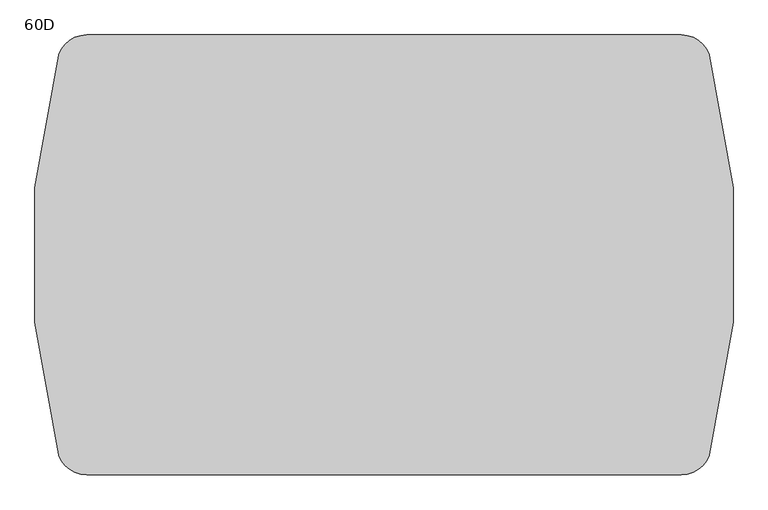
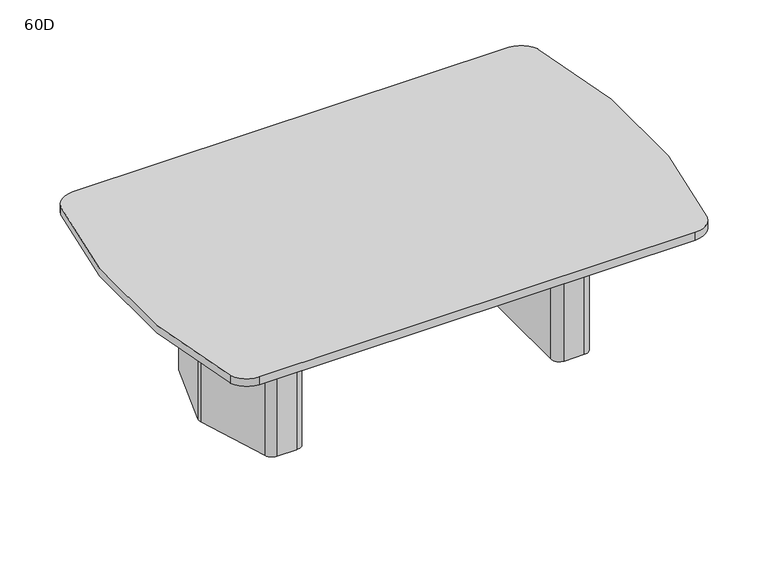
"""IFC4 building model written with IfcOpenShell, lengths in millimetres: furniture geometry, Coalesse_AM_Table_Conference_ETable2_SoftRadiused_96in_TwoBase : 60D."""

from ifc_helpers import new_model, si_unit, point, frame, frame_2d, origin, origin_with_axes, place, context, project, spatial, polyline, circle_curve, trimmed, segment, composite_curve, outline, extrude, source, transform, mapped, element, save


def furniture_60d_01271257(model_context):
    return source(origin(), model_context, "Body", "SweptSolid", [
        extrude(outline(composite_curve([segment(polyline([(817.5625, 101.7236478), (817.5625, -97.2761514)]), True, "CONTINUOUS"), segment(trimmed(circle_curve(frame_2d((779.4625, -97.2761514)), 38.1), [point((817.5625, -97.2761514))], [point((815.7991129, -108.7330515))], False, "CARTESIAN"), True, "CONTINUOUS"), segment(polyline([(815.7991129, -108.7330515), (757.3745591, -294.0319001)]), True, "CONTINUOUS"), segment(trimmed(circle_curve(frame_2d((721.0379462, -282.575)), 38.1), [point((757.3745591, -294.0319001))], [point((721.0379462, -320.675))], False, "CARTESIAN"), True, "CONTINUOUS"), segment(polyline([(721.0379462, -320.675), (654.05, -320.675)]), True, "CONTINUOUS"), segment(trimmed(circle_curve(frame_2d((654.05, -282.575)), 38.1), [point((654.05, -320.675))], [point((615.95, -282.575))], False, "CARTESIAN"), True, "CONTINUOUS"), segment(polyline([(615.95, -282.575), (615.95, 282.575)]), True, "CONTINUOUS"), segment(trimmed(circle_curve(frame_2d((654.05, 282.575)), 38.1), [point((615.95, 282.575))], [point((654.05, 320.675))], False, "CARTESIAN"), True, "CONTINUOUS"), segment(polyline([(654.05, 320.675), (724.7873998, 320.675)]), True, "CONTINUOUS"), segment(trimmed(circle_curve(frame_2d((724.7873998, 282.575)), 38.1), [point((724.7873998, 320.675))], [point((761.2572049, 293.6005756))], False, "CARTESIAN"), True, "CONTINUOUS"), segment(polyline([(761.2572049, 293.6005756), (815.9323051, 112.7492234)]), True, "CONTINUOUS"), segment(trimmed(circle_curve(frame_2d((779.4625, 101.7236478)), 38.1), [point((815.9323051, 112.7492234))], [point((817.5625, 101.7236478))], False, "CARTESIAN"), True, "CONTINUOUS")], self_intersect=False)), origin_with_axes(), (0.0, 0.0, 1.0), 3.175),
        extrude(outline(composite_curve([segment(polyline([(638.175, 381.0), (726.3221663, 381.0)]), True, "CONTINUOUS"), segment(trimmed(circle_curve(frame_2d((726.3221663, 339.725)), 41.275), [point((726.3221663, 381.0))], [point((765.6868303, 352.1366418))], False, "CARTESIAN"), True, "CONTINUOUS"), segment(polyline([(765.6868303, 352.1366418), (872.8018053, 12.4116418)]), True, "CONTINUOUS"), segment(trimmed(circle_curve(frame_2d((833.4371413, 0.0)), 41.275), [point((872.8018053, 12.4116418))], [point((872.8018053, -12.4116418))], False, "CARTESIAN"), True, "CONTINUOUS"), segment(polyline([(872.8018053, -12.4116418), (765.6868303, -352.1366418)]), True, "CONTINUOUS"), segment(trimmed(circle_curve(frame_2d((726.3221663, -339.725)), 41.275), [point((765.6868303, -352.1366418))], [point((726.3221663, -381.0))], False, "CARTESIAN"), True, "CONTINUOUS"), segment(polyline([(726.3221663, -381.0), (631.825, -381.0)]), True, "CONTINUOUS"), segment(trimmed(circle_curve(frame_2d((631.825, -339.725)), 41.275), [point((631.825, -381.0))], [point((590.55, -339.725))], False, "CARTESIAN"), True, "CONTINUOUS"), segment(polyline([(590.55, -339.725), (590.55, 333.375)]), True, "CONTINUOUS"), segment(trimmed(circle_curve(frame_2d((638.175, 333.375)), 47.625), [point((590.55, 333.375))], [point((638.175, 381.0))], False, "CARTESIAN"), True, "CONTINUOUS")], self_intersect=False), holes=[composite_curve([segment(trimmed(circle_curve(frame_2d((654.05, -282.575)), 25.4), [point((628.65, -282.575))], [point((654.05, -307.975))], True, "CARTESIAN"), True, "CONTINUOUS"), segment(polyline([(654.05, -307.975), (721.0379462, -307.975)]), True, "CONTINUOUS"), segment(trimmed(circle_curve(frame_2d((721.0379462, -282.575)), 25.4), [point((721.0379462, -307.975))], [point((745.2623548, -290.2129334))], True, "CARTESIAN"), True, "CONTINUOUS"), segment(polyline([(745.2623548, -290.2129334), (803.6869086, -104.9140848)]), True, "CONTINUOUS"), segment(trimmed(circle_curve(frame_2d((779.4625, -97.2761514)), 25.4), [point((803.6869086, -104.9140848))], [point((804.8625, -97.2761514))], True, "CARTESIAN"), True, "CONTINUOUS"), segment(polyline([(804.8625, -97.2761514), (804.8625, 101.7236478)]), True, "CONTINUOUS"), segment(trimmed(circle_curve(frame_2d((779.4625, 101.7236478)), 25.4), [point((804.8625, 101.7236478))], [point((803.7757034, 109.0740316))], True, "CARTESIAN"), True, "CONTINUOUS"), segment(polyline([(803.7757034, 109.0740316), (749.1006032, 289.9253837)]), True, "CONTINUOUS"), segment(trimmed(circle_curve(frame_2d((724.7873998, 282.575)), 25.4), [point((749.1006032, 289.9253837))], [point((724.7873998, 307.975))], True, "CARTESIAN"), True, "CONTINUOUS"), segment(polyline([(724.7873998, 307.975), (654.05, 307.975)]), True, "CONTINUOUS"), segment(trimmed(circle_curve(frame_2d((654.05, 282.575)), 25.4), [point((654.05, 307.975))], [point((628.65, 282.575))], True, "CARTESIAN"), True, "CONTINUOUS"), segment(polyline([(628.65, 282.575), (628.65, -282.575)]), True, "CONTINUOUS")], self_intersect=False)]), frame((0.0, 0.0, 3.175), z_axis=(0.0, 0.0, 1.0), x_axis=(1.0, 0.0, 0.0)), (0.0, 0.0, 1.0), 695.325),
        extrude(outline(composite_curve([segment(trimmed(circle_curve(frame_2d((-779.4625, 101.7236478)), 38.1), [point((-817.5625, 101.7236478))], [point((-815.9323051, 112.7492234))], False, "CARTESIAN"), True, "CONTINUOUS"), segment(polyline([(-815.9323051, 112.7492234), (-761.2572049, 293.6005756)]), True, "CONTINUOUS"), segment(trimmed(circle_curve(frame_2d((-724.7873998, 282.575)), 38.1), [point((-761.2572049, 293.6005756))], [point((-724.7873998, 320.675))], False, "CARTESIAN"), True, "CONTINUOUS"), segment(polyline([(-724.7873998, 320.675), (-654.05, 320.675)]), True, "CONTINUOUS"), segment(trimmed(circle_curve(frame_2d((-654.05, 282.575)), 38.1), [point((-654.05, 320.675))], [point((-615.95, 282.575))], False, "CARTESIAN"), True, "CONTINUOUS"), segment(polyline([(-615.95, 282.575), (-615.95, -282.575)]), True, "CONTINUOUS"), segment(trimmed(circle_curve(frame_2d((-654.05, -282.575)), 38.1), [point((-615.95, -282.575))], [point((-654.05, -320.675))], False, "CARTESIAN"), True, "CONTINUOUS"), segment(polyline([(-654.05, -320.675), (-721.0379462, -320.675)]), True, "CONTINUOUS"), segment(trimmed(circle_curve(frame_2d((-721.0379462, -282.575)), 38.1), [point((-721.0379462, -320.675))], [point((-757.3745591, -294.0319001))], False, "CARTESIAN"), True, "CONTINUOUS"), segment(polyline([(-757.3745591, -294.0319001), (-815.7991129, -108.7330515)]), True, "CONTINUOUS"), segment(trimmed(circle_curve(frame_2d((-779.4625, -97.2761514)), 38.1), [point((-815.7991129, -108.7330515))], [point((-817.5625, -97.2761514))], False, "CARTESIAN"), True, "CONTINUOUS"), segment(polyline([(-817.5625, -97.2761514), (-817.5625, 101.7236478)]), True, "CONTINUOUS")], self_intersect=False)), origin_with_axes(), (0.0, 0.0, 1.0), 3.175),
        extrude(outline(composite_curve([segment(trimmed(circle_curve(frame_2d((-638.175, 333.375)), 47.625), [point((-638.175, 381.0))], [point((-590.55, 333.375))], False, "CARTESIAN"), True, "CONTINUOUS"), segment(polyline([(-590.55, 333.375), (-590.55, -339.725)]), True, "CONTINUOUS"), segment(trimmed(circle_curve(frame_2d((-631.825, -339.725)), 41.275), [point((-590.55, -339.725))], [point((-631.825, -381.0))], False, "CARTESIAN"), True, "CONTINUOUS"), segment(polyline([(-631.825, -381.0), (-726.3221663, -381.0)]), True, "CONTINUOUS"), segment(trimmed(circle_curve(frame_2d((-726.3221663, -339.725)), 41.275), [point((-726.3221663, -381.0))], [point((-765.6868303, -352.1366418))], False, "CARTESIAN"), True, "CONTINUOUS"), segment(polyline([(-765.6868303, -352.1366418), (-872.8018053, -12.4116418)]), True, "CONTINUOUS"), segment(trimmed(circle_curve(frame_2d((-833.4371413, 0.0)), 41.275), [point((-872.8018053, -12.4116418))], [point((-872.8018053, 12.4116418))], False, "CARTESIAN"), True, "CONTINUOUS"), segment(polyline([(-872.8018053, 12.4116418), (-765.6868303, 352.1366418)]), True, "CONTINUOUS"), segment(trimmed(circle_curve(frame_2d((-726.3221663, 339.725)), 41.275), [point((-765.6868303, 352.1366418))], [point((-726.3221663, 381.0))], False, "CARTESIAN"), True, "CONTINUOUS"), segment(polyline([(-726.3221663, 381.0), (-638.175, 381.0)]), True, "CONTINUOUS")], self_intersect=False), holes=[composite_curve([segment(polyline([(-628.65, -282.575), (-628.65, 282.575)]), True, "CONTINUOUS"), segment(trimmed(circle_curve(frame_2d((-654.05, 282.575)), 25.4), [point((-628.65, 282.575))], [point((-654.05, 307.975))], True, "CARTESIAN"), True, "CONTINUOUS"), segment(polyline([(-654.05, 307.975), (-724.7873998, 307.975)]), True, "CONTINUOUS"), segment(trimmed(circle_curve(frame_2d((-724.7873998, 282.575)), 25.4), [point((-724.7873998, 307.975))], [point((-749.1006032, 289.9253837))], True, "CARTESIAN"), True, "CONTINUOUS"), segment(polyline([(-749.1006032, 289.9253837), (-803.7757034, 109.0740316)]), True, "CONTINUOUS"), segment(trimmed(circle_curve(frame_2d((-779.4625, 101.7236478)), 25.4), [point((-803.7757034, 109.0740316))], [point((-804.8625, 101.7236478))], True, "CARTESIAN"), True, "CONTINUOUS"), segment(polyline([(-804.8625, 101.7236478), (-804.8625, -97.2761514)]), True, "CONTINUOUS"), segment(trimmed(circle_curve(frame_2d((-779.4625, -97.2761514)), 25.4), [point((-804.8625, -97.2761514))], [point((-803.6869086, -104.9140848))], True, "CARTESIAN"), True, "CONTINUOUS"), segment(polyline([(-803.6869086, -104.9140848), (-745.2623548, -290.2129334)]), True, "CONTINUOUS"), segment(trimmed(circle_curve(frame_2d((-721.0379462, -282.575)), 25.4), [point((-745.2623548, -290.2129334))], [point((-721.0379462, -307.975))], True, "CARTESIAN"), True, "CONTINUOUS"), segment(polyline([(-721.0379462, -307.975), (-654.05, -307.975)]), True, "CONTINUOUS"), segment(trimmed(circle_curve(frame_2d((-654.05, -282.575)), 25.4), [point((-654.05, -307.975))], [point((-628.65, -282.575))], True, "CARTESIAN"), True, "CONTINUOUS")], self_intersect=False)]), frame((0.0, 0.0, 3.175), z_axis=(0.0, 0.0, 1.0), x_axis=(1.0, 0.0, 0.0)), (0.0, 0.0, 1.0), 695.325),
        extrude(outline(polyline([(96.8375, 698.5), (103.1875, 698.5), (103.1875, 476.25), (-103.1875, 476.25), (-103.1875, 698.5), (-96.8375, 698.5), (-96.8375, 482.6), (96.8375, 482.6), (96.8375, 698.5)])), frame((-590.55, 0.0, 0.0), z_axis=(1.0, 0.0, 0.0), x_axis=(0.0, 1.0, 0.0)), (0.0, 0.0, 1.0), 1181.1),
        extrude(outline(composite_curve([segment(polyline([(1030.442116, -762.0), (-1030.4420609, -762.0)]), True, "CONTINUOUS"), segment(trimmed(circle_curve(frame_2d((-1030.4420609, -660.3999756)), 101.6000244), [point((-1030.4420609, -762.0))], [point((-1126.2319848, -694.2652296))], False, "CARTESIAN"), True, "CONTINUOUS"), segment(polyline([(-1126.2319848, -694.2652296), (-1126.9878201, -692.1273037)]), True, "CONTINUOUS"), segment(trimmed(circle_curve(frame_2d((1413.3667136, 5.18e-05)), 2632.9529872), [point((-1126.9878201, -692.1273037))], [point((-1126.9818993, 692.1491385))], False, "CARTESIAN"), True, "CONTINUOUS"), segment(polyline([(-1126.9818993, 692.1491385), (-1126.2316179, 694.2662966)]), True, "CONTINUOUS"), segment(trimmed(circle_curve(frame_2d((-1030.4420884, 660.4)), 101.6), [point((-1126.2316179, 694.2662966))], [point((-1030.4420884, 762.0))], False, "CARTESIAN"), True, "CONTINUOUS"), segment(polyline([(-1030.4420884, 762.0), (1030.4420884, 762.0)]), True, "CONTINUOUS"), segment(trimmed(circle_curve(frame_2d((1030.4420884, 660.3999756)), 101.6000244), [point((1030.4420884, 762.0))], [point((1126.2320124, 694.2652296))], False, "CARTESIAN"), True, "CONTINUOUS"), segment(polyline([(1126.2320124, 694.2652296), (1126.9878477, 692.1223198)]), True, "CONTINUOUS"), segment(trimmed(circle_curve(frame_2d((-1413.3294338, -5.18e-05)), 2632.9157351), [point((1126.9878477, 692.1223198))], [point((1126.9819268, -692.1441544))], False, "CARTESIAN"), True, "CONTINUOUS"), segment(polyline([(1126.9819268, -692.1441544), (1126.2316455, -694.2662966)]), True, "CONTINUOUS"), segment(trimmed(circle_curve(frame_2d((1030.442116, -660.4)), 101.6), [point((1126.2316455, -694.2662966))], [point((1030.442116, -762.0))], False, "CARTESIAN"), True, "CONTINUOUS")], self_intersect=False)), frame((0.0, 0.0, 698.5), z_axis=(0.0, 0.0, 1.0), x_axis=(1.0, 0.0, 0.0)), (0.0, 0.0, 1.0), 38.1),
    ])


if __name__ == "__main__":
    model = new_model("IFC4")
    model_context = context("Model", 3, world=origin())
    ifc_project = project(units=[si_unit("LENGTHUNIT", "METRE", prefix="MILLI")], contexts=[model_context])
    site = spatial("IfcSite", under=ifc_project)
    building = spatial("IfcBuilding", under=site)
    placement = place(None, origin())
    furniture_60d_shape = furniture_60d_01271257(model_context)
    element("IfcFurniture", 1, ObjectType="Coalesse_AM_Table_Conference_ETable2_SoftRadiused_96in_TwoBase : 60D", at=placement, inside=building, context=model_context, shape_type="MappedRepresentation", body=[
        mapped(furniture_60d_shape, transform((0.0, 0.0, 0.0), x_axis=(1.0, 0.0, 0.0), y_axis=(0.0, 1.0, 0.0), z_axis=(0.0, 0.0, 1.0))),
    ])
    save(model, "model.ifc")
